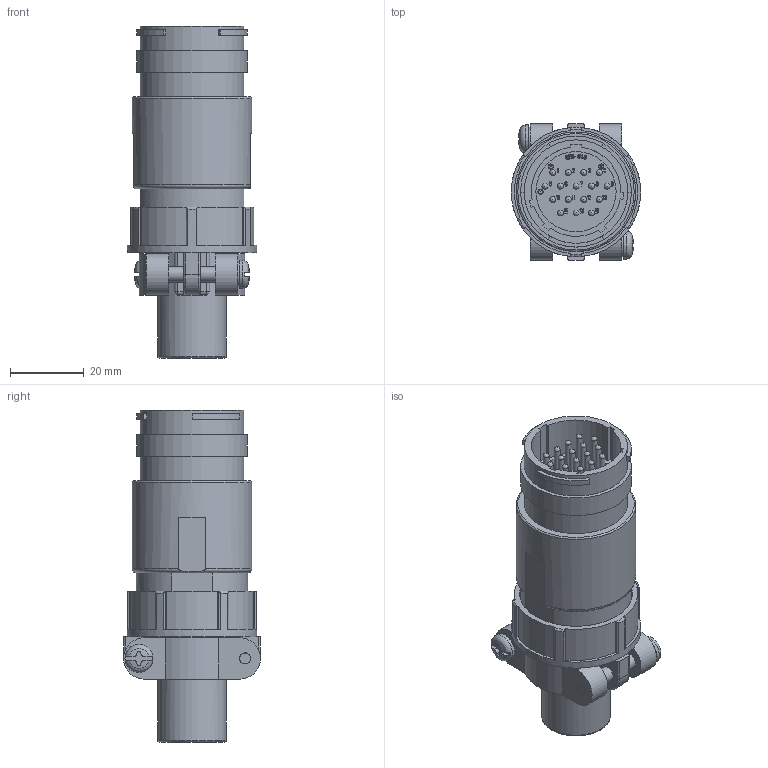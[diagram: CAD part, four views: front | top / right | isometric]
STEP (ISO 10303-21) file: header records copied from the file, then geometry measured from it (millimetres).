
FILE_DESCRIPTION (( 'STEP AP203' ), '1' );
FILE_NAME ('WEBCR2516M-2-D(R1).STEP', '2021-08-05T06:47:15', ( '' ), ( '' ), 'SwSTEP 2.0', 'SolidWorks 2018', '' );
FILE_SCHEMA (( 'CONFIG_CONTROL_DESIGN' ));
Length unit declared in the file: millimetre
Products named in the file (1): WEBCR2516M-2-D(R1)
Bounding box: 35 x 37 x 89.8 mm (x, y, z)
Volume: 37294.6 mm3; surface area: 22687.1 mm2
Topology: 1 solids, 1 shells, 1396 faces, 3811 edges, 2517 vertices
Faces by surface type: plane 612, bspline 535, cylinder 183, cone 24, sphere 24, torus 18
Full cylindrical faces by diameter (mm): 1.2 x4, 1.4 x4, 1.6 x16, 1.7 x16, 2.4 x16, 2.8 x2, 3 x2, 4.1 x2, 4.3 x4, 7.6 x2, 13 x2, 17.8 x1, 18.64 x1, 19 x1, 21.3 x1, 21.7 x1, 23.2 x1, 23.6 x1, 27.96 x1, 28 x1, 30 x1, 30.5 x1, 32.3 x1, 35 x1
Entity records: 62948 total; most frequent: CARTESIAN_POINT 32121, ORIENTED_EDGE 7174, DIRECTION 4568, EDGE_CURVE 3587, VERTEX_POINT 2429, LINE 2026, VECTOR 2026, EDGE_LOOP 1656
